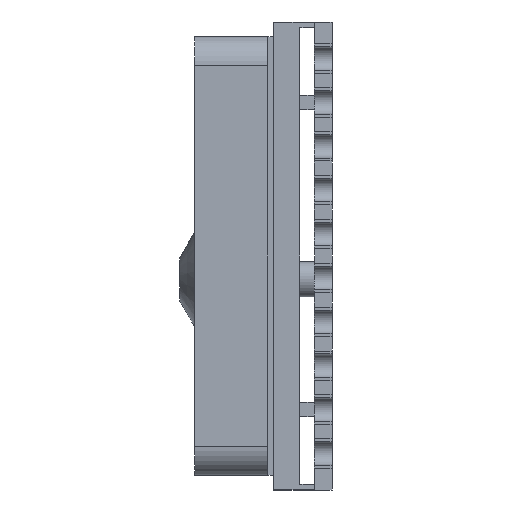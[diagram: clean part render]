
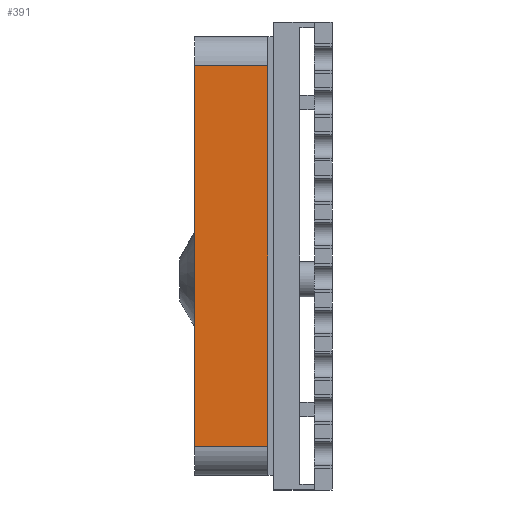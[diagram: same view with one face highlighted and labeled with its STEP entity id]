
A CAD part, left-side view. The second image highlights one B-rep face of the part: STEP entity #391.
In plain terms, the highlighted planar face has unit normal (-1, 0, 0).
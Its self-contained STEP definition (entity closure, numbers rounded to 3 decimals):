
#202 = FACE_OUTER_BOUND ( 'NONE', #8745, .T. ) ;
#336 = PLANE ( 'NONE',  #4472 ) ;
#391 = ADVANCED_FACE ( 'NONE', ( #202 ), #336, .F. ) ;
#446 = LINE ( 'NONE', #7633, #10927 ) ;
#1407 = EDGE_CURVE ( 'NONE', #8147, #8925, #9987, .T. ) ;
#2264 = ORIENTED_EDGE ( 'NONE', *, *, #4823, .F. ) ;
#2750 = VERTEX_POINT ( 'NONE', #7752 ) ;
#2835 = DIRECTION ( 'NONE',  ( 0., 1., 0. ) ) ;
#3585 = DIRECTION ( 'NONE',  ( 0., 0., 1. ) ) ;
#3621 = VECTOR ( 'NONE', #3585, 1000. ) ;
#4079 = ORIENTED_EDGE ( 'NONE', *, *, #6906, .T. ) ;
#4419 = CARTESIAN_POINT ( 'NONE',  ( -7., 4.7, -6.5 ) ) ;
#4472 = AXIS2_PLACEMENT_3D ( 'NONE', #4945, #8535, #6648 ) ;
#4727 = CARTESIAN_POINT ( 'NONE',  ( -7., 4.7, 6.5 ) ) ;
#4823 = EDGE_CURVE ( 'NONE', #6627, #8925, #6066, .T. ) ;
#4945 = CARTESIAN_POINT ( 'NONE',  ( -7., 4.7, -7.5 ) ) ;
#5185 = CARTESIAN_POINT ( 'NONE',  ( -7., 2.2, 6.5 ) ) ;
#5643 = DIRECTION ( 'NONE',  ( 0., 0., 1. ) ) ;
#6029 = LINE ( 'NONE', #10056, #3621 ) ;
#6066 = LINE ( 'NONE', #8450, #11163 ) ;
#6627 = VERTEX_POINT ( 'NONE', #4419 ) ;
#6648 = DIRECTION ( 'NONE',  ( 0., 0., -1. ) ) ;
#6906 = EDGE_CURVE ( 'NONE', #6627, #2750, #446, .T. ) ;
#7447 = CARTESIAN_POINT ( 'NONE',  ( -7., 4.7, 6.5 ) ) ;
#7633 = CARTESIAN_POINT ( 'NONE',  ( -7., 4.7, -6.5 ) ) ;
#7671 = DIRECTION ( 'NONE',  ( 0., -1., 0. ) ) ;
#7752 = CARTESIAN_POINT ( 'NONE',  ( -7., 2.2, -6.5 ) ) ;
#8147 = VERTEX_POINT ( 'NONE', #5185 ) ;
#8295 = ORIENTED_EDGE ( 'NONE', *, *, #1407, .T. ) ;
#8450 = CARTESIAN_POINT ( 'NONE',  ( -7., 4.7, -7.5 ) ) ;
#8535 = DIRECTION ( 'NONE',  ( 1., 0., 0. ) ) ;
#8745 = EDGE_LOOP ( 'NONE', ( #9606, #8295, #2264, #4079 ) ) ;
#8925 = VERTEX_POINT ( 'NONE', #7447 ) ;
#9606 = ORIENTED_EDGE ( 'NONE', *, *, #10000, .T. ) ;
#9987 = LINE ( 'NONE', #4727, #10677 ) ;
#10000 = EDGE_CURVE ( 'NONE', #2750, #8147, #6029, .T. ) ;
#10056 = CARTESIAN_POINT ( 'NONE',  ( -7., 2.2, -7.5 ) ) ;
#10677 = VECTOR ( 'NONE', #2835, 1000. ) ;
#10927 = VECTOR ( 'NONE', #7671, 1000. ) ;
#11163 = VECTOR ( 'NONE', #5643, 1000. ) ;
